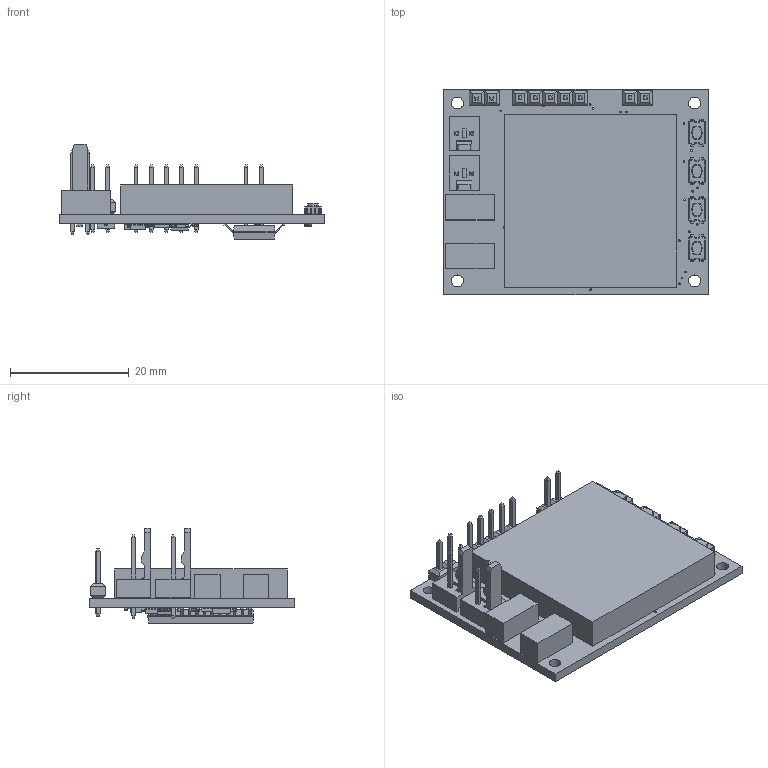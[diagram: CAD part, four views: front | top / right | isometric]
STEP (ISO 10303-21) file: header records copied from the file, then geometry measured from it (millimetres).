
FILE_DESCRIPTION(/* description */ (''),/* implementation_level */ '2;1');
FILE_NAME(/* name */ 'C:/Users/priba/Documents/Temp/Export/mrm-8x8a v1.step',/* time_stamp */ '2019-09-09T00:12:42+02:00',/* author */ (''),/* organization */ (''),/* preprocessor_version */ 'ST-DEVELOPER v18',/* originating_system */ 'Autodesk Translation Framework v8.6.0.1094',/* authorisation */ '');
FILE_SCHEMA (('AUTOMOTIVE_DESIGN { 1 0 10303 214 3 1 1 }'));
Length unit declared in the file: millimetre
Products named in the file (26): mrm-8x8a; PCB Component; Board; 100 nF; 200 kOhm; MICROCHIP_MCP1725T-ADJE/MC; INFINEON_TLE9250XLEXUMA1; JST_BM04B-GHK-TBT; 1X05; 1X02; FIDUCIAL1X2; STM32F042G6U6; LED_8X8_BICOLOR; HOLTEK_HT16K33-28SOP; Body; PinsArrayLR; MOLEX_22-27-2021; TOSHIBA_SSM3J338R,LFSOT23; TI_ESD321DPYR; term1; term2; body_1; SWITCH-SPST; NXP_GTL2002DP,118; Body (1); PinsArrayLR (1)
Assembly tree (54 placements, depth 4):
  mrm-8x8a
    PCB Component
      Board
      100 nF  x9
      200 kOhm  x13
      MICROCHIP_MCP1725T-ADJE/MC
      INFINEON_TLE9250XLEXUMA1
      JST_BM04B-GHK-TBT  x2
      1X05
      1X02  x2
      FIDUCIAL1X2  x4
      STM32F042G6U6
      LED_8X8_BICOLOR
      HOLTEK_HT16K33-28SOP
        Body
        PinsArrayLR
      MOLEX_22-27-2021  x2
      TOSHIBA_SSM3J338R,LFSOT23
      TI_ESD321DPYR
        term1
        term2
        body_1
      SWITCH-SPST  x4
      NXP_GTL2002DP,118
        Body (1)
        PinsArrayLR (1)
Bounding box: 44.6 x 34.6 x 16.06 mm (x, y, z)
Volume: 7671.9 mm3; surface area: 8127.6 mm2
Topology: 120 solids, 120 shells, 3733 faces, 10261 edges, 6766 vertices
Faces by surface type: plane 2290, cylinder 1099, sphere 280, torus 48, bspline 16
Full cylindrical faces by diameter (mm): 0.3 x99, 0.375 x1, 0.6 x24, 0.882 x1, 1.016 x9, 1.11 x4, 2 x4
Entity records: 55296 total; most frequent: CARTESIAN_POINT 9960, ORIENTED_EDGE 8888, DIRECTION 8786, EDGE_CURVE 4444, LINE 3456, VECTOR 3456, VERTEX_POINT 2874, AXIS2_PLACEMENT_3D 2665
